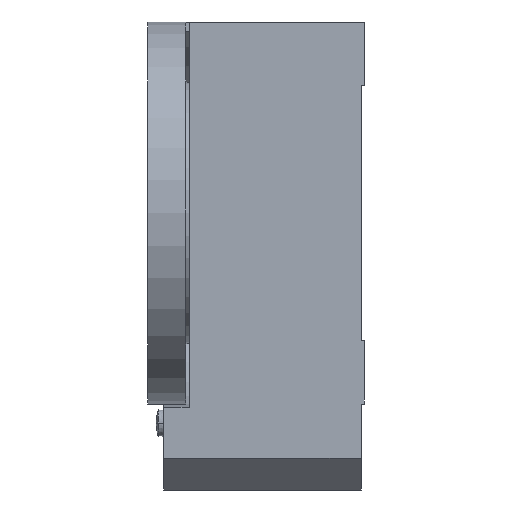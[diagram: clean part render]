
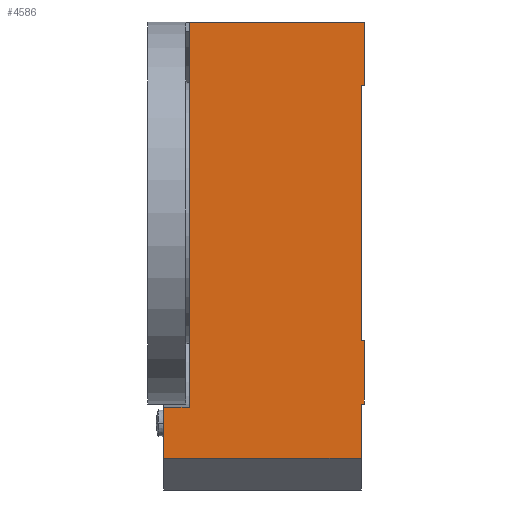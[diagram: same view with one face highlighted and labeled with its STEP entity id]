
A CAD part, left-side view. The second image highlights one B-rep face of the part: STEP entity #4586.
In plain terms, the highlighted planar face has unit normal (-1, 0, 0).
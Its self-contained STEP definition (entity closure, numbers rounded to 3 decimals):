
#128 = VERTEX_POINT ( 'NONE', #7063 ) ;
#222 = ORIENTED_EDGE ( 'NONE', *, *, #660, .F. ) ;
#323 = VERTEX_POINT ( 'NONE', #6423 ) ;
#330 = CARTESIAN_POINT ( 'NONE',  ( -30., 27.5, 30. ) ) ;
#338 = CARTESIAN_POINT ( 'NONE',  ( -30., 0., 30. ) ) ;
#417 = CARTESIAN_POINT ( 'NONE',  ( -30., 27.5, 30. ) ) ;
#447 = DIRECTION ( 'NONE',  ( 0., -1., 0. ) ) ;
#472 = CARTESIAN_POINT ( 'NONE',  ( -30., 0., 20. ) ) ;
#525 = VECTOR ( 'NONE', #1291, 1000. ) ;
#602 = CARTESIAN_POINT ( 'NONE',  ( -30., 31.5, 30. ) ) ;
#628 = CARTESIAN_POINT ( 'NONE',  ( -30., -85.56, -30.5 ) ) ;
#660 = EDGE_CURVE ( 'NONE', #4284, #128, #2765, .T. ) ;
#769 = ORIENTED_EDGE ( 'NONE', *, *, #1384, .T. ) ;
#1291 = DIRECTION ( 'NONE',  ( 0., -1., 0. ) ) ;
#1308 = VECTOR ( 'NONE', #3272, 1000. ) ;
#1384 = EDGE_CURVE ( 'NONE', #5935, #2470, #2404, .T. ) ;
#1425 = VERTEX_POINT ( 'NONE', #4339 ) ;
#1473 = LINE ( 'NONE', #330, #4758 ) ;
#1630 = ORIENTED_EDGE ( 'NONE', *, *, #6118, .T. ) ;
#1644 = LINE ( 'NONE', #602, #4654 ) ;
#1729 = DIRECTION ( 'NONE',  ( 0., -1., 0. ) ) ;
#1805 = ORIENTED_EDGE ( 'NONE', *, *, #6965, .F. ) ;
#1836 = VERTEX_POINT ( 'NONE', #2322 ) ;
#1883 = DIRECTION ( 'NONE',  ( 0., -1., 0. ) ) ;
#1905 = VECTOR ( 'NONE', #4394, 1000. ) ;
#2008 = VECTOR ( 'NONE', #4582, 1000. ) ;
#2053 = CARTESIAN_POINT ( 'NONE',  ( -30., 31.5, -30.5 ) ) ;
#2058 = DIRECTION ( 'NONE',  ( 0., 0., -1. ) ) ;
#2178 = CARTESIAN_POINT ( 'NONE',  ( -30., 27.5, -30.5 ) ) ;
#2285 = AXIS2_PLACEMENT_3D ( 'NONE', #5983, #5480, #4385 ) ;
#2322 = CARTESIAN_POINT ( 'NONE',  ( -30., 0., -30. ) ) ;
#2335 = LINE ( 'NONE', #4473, #1905 ) ;
#2404 = LINE ( 'NONE', #628, #5535 ) ;
#2457 = ORIENTED_EDGE ( 'NONE', *, *, #5887, .F. ) ;
#2468 = VERTEX_POINT ( 'NONE', #472 ) ;
#2470 = VERTEX_POINT ( 'NONE', #2053 ) ;
#2476 = CARTESIAN_POINT ( 'NONE',  ( -30., 0.5, 20. ) ) ;
#2608 = CARTESIAN_POINT ( 'NONE',  ( -30., 0.5, -30. ) ) ;
#2736 = CARTESIAN_POINT ( 'NONE',  ( -30., 0.5, -20. ) ) ;
#2742 = ORIENTED_EDGE ( 'NONE', *, *, #5052, .T. ) ;
#2765 = LINE ( 'NONE', #7165, #1308 ) ;
#3084 = VECTOR ( 'NONE', #1883, 1000. ) ;
#3104 = CARTESIAN_POINT ( 'NONE',  ( -30., 0.5, -43.5 ) ) ;
#3270 = FACE_OUTER_BOUND ( 'NONE', #6345, .T. ) ;
#3272 = DIRECTION ( 'NONE',  ( 0., 0., -1. ) ) ;
#3314 = VECTOR ( 'NONE', #7075, 1000. ) ;
#3388 = CARTESIAN_POINT ( 'NONE',  ( -30., 0.5, -30. ) ) ;
#3402 = EDGE_CURVE ( 'NONE', #1836, #1425, #5820, .T. ) ;
#3539 = CARTESIAN_POINT ( 'NONE',  ( -30., 31.5, -38.5 ) ) ;
#3701 = VECTOR ( 'NONE', #5894, 1000. ) ;
#3988 = CARTESIAN_POINT ( 'NONE',  ( -30., 0.5, 20. ) ) ;
#4057 = LINE ( 'NONE', #3988, #525 ) ;
#4126 = CARTESIAN_POINT ( 'NONE',  ( -30., 0., -43.5 ) ) ;
#4147 = VECTOR ( 'NONE', #2058, 1000. ) ;
#4150 = EDGE_CURVE ( 'NONE', #6936, #5935, #1473, .T. ) ;
#4284 = VERTEX_POINT ( 'NONE', #3388 ) ;
#4339 = CARTESIAN_POINT ( 'NONE',  ( -30., 0., -20. ) ) ;
#4381 = CARTESIAN_POINT ( 'NONE',  ( -30., 0.5, -20. ) ) ;
#4385 = DIRECTION ( 'NONE',  ( 0., 0., -1. ) ) ;
#4394 = DIRECTION ( 'NONE',  ( 0., 0., 1. ) ) ;
#4435 = EDGE_CURVE ( 'NONE', #5090, #6426, #6765, .T. ) ;
#4473 = CARTESIAN_POINT ( 'NONE',  ( -30., 31.5, -43.5 ) ) ;
#4540 = VERTEX_POINT ( 'NONE', #338 ) ;
#4582 = DIRECTION ( 'NONE',  ( 0., 0., 1. ) ) ;
#4586 = ADVANCED_FACE ( 'NONE', ( #3270 ), #5449, .F. ) ;
#4654 = VECTOR ( 'NONE', #1729, 1000. ) ;
#4740 = DIRECTION ( 'NONE',  ( 0., 0., -1. ) ) ;
#4758 = VECTOR ( 'NONE', #4740, 1000. ) ;
#4844 = EDGE_CURVE ( 'NONE', #323, #2470, #2335, .T. ) ;
#5012 = LINE ( 'NONE', #3539, #3084 ) ;
#5040 = DIRECTION ( 'NONE',  ( 0., 1., 0. ) ) ;
#5052 = EDGE_CURVE ( 'NONE', #2468, #4540, #5624, .T. ) ;
#5090 = VERTEX_POINT ( 'NONE', #2476 ) ;
#5119 = CARTESIAN_POINT ( 'NONE',  ( -30., 0., -43.5 ) ) ;
#5139 = VECTOR ( 'NONE', #447, 1000. ) ;
#5398 = ORIENTED_EDGE ( 'NONE', *, *, #4435, .F. ) ;
#5407 = ORIENTED_EDGE ( 'NONE', *, *, #3402, .T. ) ;
#5449 = PLANE ( 'NONE',  #2285 ) ;
#5480 = DIRECTION ( 'NONE',  ( 1., 0., 0. ) ) ;
#5535 = VECTOR ( 'NONE', #5040, 1000. ) ;
#5624 = LINE ( 'NONE', #4126, #3701 ) ;
#5791 = ORIENTED_EDGE ( 'NONE', *, *, #4150, .T. ) ;
#5820 = LINE ( 'NONE', #5119, #2008 ) ;
#5887 = EDGE_CURVE ( 'NONE', #6936, #4540, #1644, .T. ) ;
#5894 = DIRECTION ( 'NONE',  ( 0., 0., 1. ) ) ;
#5935 = VERTEX_POINT ( 'NONE', #2178 ) ;
#5983 = CARTESIAN_POINT ( 'NONE',  ( -30., 31.5, -43.5 ) ) ;
#6118 = EDGE_CURVE ( 'NONE', #5090, #2468, #4057, .T. ) ;
#6165 = EDGE_CURVE ( 'NONE', #323, #128, #5012, .T. ) ;
#6290 = EDGE_CURVE ( 'NONE', #4284, #1836, #6447, .T. ) ;
#6345 = EDGE_LOOP ( 'NONE', ( #6778, #7127, #222, #6885, #5407, #1805, #5398, #1630, #2742, #2457, #5791, #769 ) ) ;
#6423 = CARTESIAN_POINT ( 'NONE',  ( -30., 31.5, -38.5 ) ) ;
#6426 = VERTEX_POINT ( 'NONE', #2736 ) ;
#6447 = LINE ( 'NONE', #2608, #3314 ) ;
#6613 = LINE ( 'NONE', #4381, #5139 ) ;
#6765 = LINE ( 'NONE', #3104, #4147 ) ;
#6778 = ORIENTED_EDGE ( 'NONE', *, *, #4844, .F. ) ;
#6885 = ORIENTED_EDGE ( 'NONE', *, *, #6290, .T. ) ;
#6936 = VERTEX_POINT ( 'NONE', #417 ) ;
#6965 = EDGE_CURVE ( 'NONE', #6426, #1425, #6613, .T. ) ;
#7063 = CARTESIAN_POINT ( 'NONE',  ( -30., 0.5, -38.5 ) ) ;
#7075 = DIRECTION ( 'NONE',  ( 0., -1., 0. ) ) ;
#7127 = ORIENTED_EDGE ( 'NONE', *, *, #6165, .T. ) ;
#7165 = CARTESIAN_POINT ( 'NONE',  ( -30., 0.5, -43.5 ) ) ;
